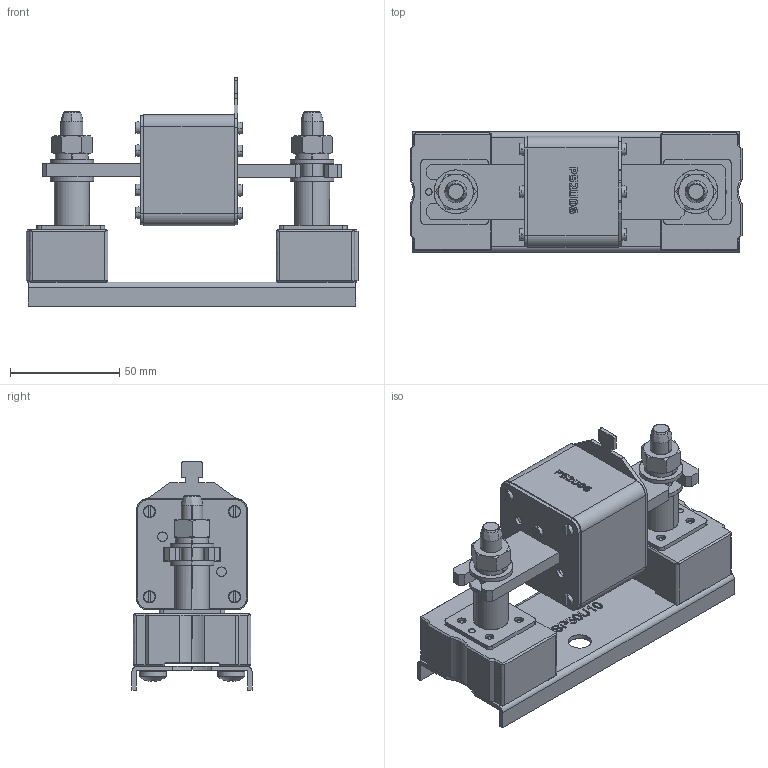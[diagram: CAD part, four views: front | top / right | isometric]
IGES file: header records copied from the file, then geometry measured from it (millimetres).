
Start section: SolidWorks IGES file using analytic representation for surfaces
Global section: file name: U:\14_RD\05_Technical_office\04_Office\Hrdinova\3D modely - IGES\Varius - Ostatní\SP50U10__P52U06.IGS; native system: SolidWorks 2011; preprocessor: SolidWorks 2011; author: adhrja3; date: 170620.142653; units: millimetre
Bounding box: 152 x 55 x 104.5 mm (x, y, z)
Surface area: 96003.6 mm2 (no closed solid volume)
Topology: 0 solids, 0 shells, 1257 faces, 16478 edges, 16454 vertices
Faces by surface type: bspline 732, revolution 525
